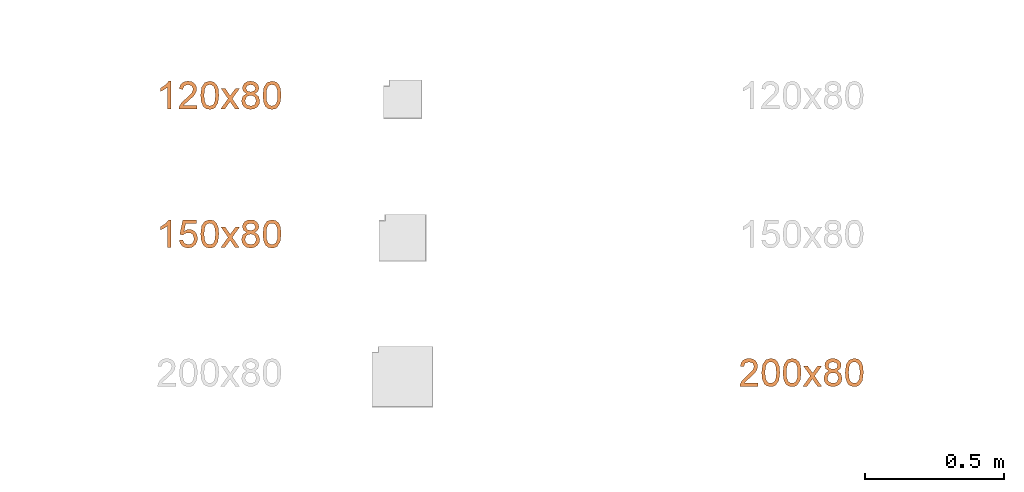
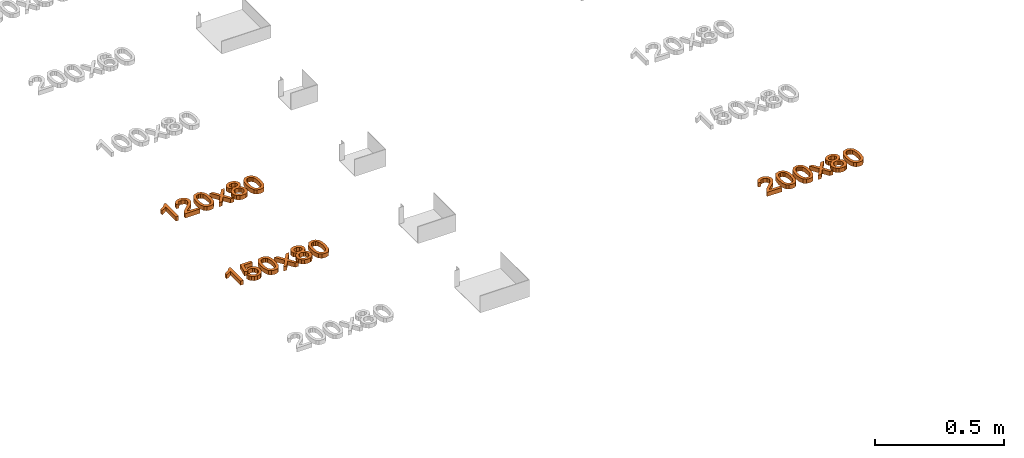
# One storey, part 41 of 71: 3 proxies.
"""IFC2X3 building model written with IfcOpenShell, lengths in millimetres."""

from ifc_helpers import new_model, entity, si_unit, converted_unit, derived_unit, direction, frame, origin, place, context, subcontext, project, spatial, polyline, outline, extrude, element, save


model = new_model("IFC2X3")

# Units and contexts
model_context = context("Model", 3, precision=0.01, world=origin(), true_north=direction((6.12303176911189e-17, 1.0)))
body_context = subcontext(model_context, "Body", "Model", "MODEL_VIEW")
ifc_project = project(units=[si_unit("LENGTHUNIT", "METRE", prefix="MILLI"), si_unit("AREAUNIT", "SQUARE_METRE"), si_unit("VOLUMEUNIT", "CUBIC_METRE"), converted_unit("PLANEANGLEUNIT", "DEGREE", entity("IfcRatioMeasure", 0.0174532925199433), si_unit("PLANEANGLEUNIT", "RADIAN"), dimensions=[0, 0, 0, 0, 0, 0, 0]), si_unit("MASSUNIT", "GRAM", prefix="KILO"), derived_unit("MASSDENSITYUNIT", [(si_unit("MASSUNIT", "GRAM", prefix="KILO"), 1), (si_unit("LENGTHUNIT", "METRE"), -3)]), si_unit("TIMEUNIT", "SECOND"), si_unit("FREQUENCYUNIT", "HERTZ"), si_unit("THERMODYNAMICTEMPERATUREUNIT", "DEGREE_CELSIUS"), derived_unit("THERMALTRANSMITTANCEUNIT", [(si_unit("MASSUNIT", "GRAM", prefix="KILO"), 1), (si_unit("THERMODYNAMICTEMPERATUREUNIT", "KELVIN"), -1), (si_unit("TIMEUNIT", "SECOND"), -3)]), derived_unit("VOLUMETRICFLOWRATEUNIT", [(si_unit("LENGTHUNIT", "METRE"), 3), (si_unit("TIMEUNIT", "SECOND"), -1)]), si_unit("ELECTRICCURRENTUNIT", "AMPERE"), si_unit("ELECTRICVOLTAGEUNIT", "VOLT"), si_unit("POWERUNIT", "WATT"), si_unit("FORCEUNIT", "NEWTON", prefix="KILO"), si_unit("ILLUMINANCEUNIT", "LUX"), si_unit("LUMINOUSFLUXUNIT", "LUMEN"), si_unit("LUMINOUSINTENSITYUNIT", "CANDELA"), derived_unit("USERDEFINED", [(si_unit("MASSUNIT", "GRAM", prefix="KILO"), -1), (si_unit("LENGTHUNIT", "METRE"), -2), (si_unit("TIMEUNIT", "SECOND"), 3), (si_unit("LUMINOUSFLUXUNIT", "LUMEN"), 1)]), derived_unit("LINEARVELOCITYUNIT", [(si_unit("LENGTHUNIT", "METRE"), 1), (si_unit("TIMEUNIT", "SECOND"), -1)]), si_unit("PRESSUREUNIT", "PASCAL"), derived_unit("USERDEFINED", [(si_unit("LENGTHUNIT", "METRE"), -2), (si_unit("MASSUNIT", "GRAM", prefix="KILO"), 1), (si_unit("TIMEUNIT", "SECOND"), -2)])], contexts=[model_context])

# Site, building, storey
site_placement = place(None, origin())
site = spatial("IfcSite", under=ifc_project, at=site_placement, Name="Default", CompositionType="ELEMENT")
building_placement = place(site_placement, origin())
building = spatial("IfcBuilding", under=site, at=building_placement, Name="Наименование здания", CompositionType="ELEMENT")
storey_placement = place(building_placement, origin())
storey = spatial("IfcBuildingStorey", under=building, at=storey_placement, Name="Этаж 01", CompositionType="ELEMENT", Elevation=0.0)

# Proxies
proxy_1_placement = place(storey_placement, origin())
element("IfcBuildingElementProxy", 1, at=proxy_1_placement, inside=storey, Name="Текст модели:100 мм Arial", ObjectType="Текст модели:100 мм Arial", context=body_context, shape_type="SweptSolid", body=[
    extrude(outline(polyline([(-63.8793021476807, -16.918484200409), (36.5770080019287, -16.918484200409), (36.5770080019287, -8.825080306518), (23.2106288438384, 2.34626961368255), (11.4629304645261, 20.7526321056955), (-0.407395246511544, 20.7526321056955), (5.93243780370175, 7.53340574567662), (14.4059864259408, -4.36144543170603), (-63.8793021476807, -4.36144543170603), (-63.8793021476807, -16.918484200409)])), frame((12950.6140165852, -3399.45595365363, 0.0), z_axis=(0.0, 0.0, 1.0), x_axis=(0.0, 1.0, 0.0)), (0.0, 0.0, 1.0), 20.0),
    extrude(outline(polyline([(-32.385878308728, -45.1669477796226), (-32.385878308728, -57.7239865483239), (33.5385752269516, -57.7239865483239), (32.1896745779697, -49.0664969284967), (24.5622545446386, -35.7369059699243), (8.84143061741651, -21.1810416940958), (-12.8390816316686, -0.260818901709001), (-18.2592096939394, 13.9639515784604), (-13.1456499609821, 25.4786580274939), (0.208466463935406, 30.1752848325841), (14.1266686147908, 25.5890226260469), (19.4119066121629, 12.9093565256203), (31.9689453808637, 14.4789863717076), (28.9247218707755, 26.6252235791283), (22.3426998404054, 35.4973110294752), (12.5662358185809, 40.9235704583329), (-0.0613136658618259, 42.7323236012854), (-12.7808336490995, 40.7212353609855), (-22.5389035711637, 34.6879706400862), (-28.746912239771, 25.6748617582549), (-30.8162484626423, 14.7242410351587), (-28.5844310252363, 2.81712712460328), (-21.1654774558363, -9.49465698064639), (-3.17604789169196, -26.6992716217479), (11.2694517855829, -38.7780637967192), (16.9348345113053, -45.1669477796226), (-32.385878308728, -45.1669477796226)])), frame((13029.3244132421, -3405.61126925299, 0.0), z_axis=(0.0, 0.0, -1.0), x_axis=(-1.0, 0.0, 0.0)), (0.0, 0.0, -1.0), 20.0),
    extrude(outline(polyline([(-7.0288431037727, -33.3490673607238), (17.5323805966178, -33.3490673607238), (35.1984171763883, -27.6137612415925), (43.3439841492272, -18.4876517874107), (47.0516941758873, -5.75150665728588), (46.7162020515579, 4.48638208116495), (43.4465778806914, 13.0955287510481), (27.9444305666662, 25.665911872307), (-0.31433837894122, 32.2325535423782), (-24.0296505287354, 32.3678288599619), (-39.4143020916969, 28.0260881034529), (-49.7293680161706, 18.9002174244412), (-54.4436715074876, 4.63998875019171), (-50.867658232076, -14.1301059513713), (-35.4058547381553, -26.7333390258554), (-7.0288431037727, -33.3490673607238)]), holes=[polyline([(-5.77428774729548, -20.8548320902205), (-25.0157644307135, -17.3562860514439), (-36.7257089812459, -11.5717922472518), (-41.0962588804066, -4.7759968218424), (-41.9669219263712, 3.21464792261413), (-39.2244253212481, 11.2791292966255), (-32.865406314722, 17.2229259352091), (-20.969837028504, 20.2947501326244), (-1.61768958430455, 19.7433141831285), (17.8514140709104, 16.2707701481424), (28.7803640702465, 10.7141596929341), (33.5546988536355, 3.61815959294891), (34.5599568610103, -4.47255337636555), (31.9421230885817, -12.1923199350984), (25.8471825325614, -18.1754808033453), (14.0250679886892, -21.402747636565), (-5.77428774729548, -20.8548320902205)])]), frame((13108.158867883, -3417.51207886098, 0.0), z_axis=(0.0, 0.0, 1.0), x_axis=(0.1018515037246, -0.994799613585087, 0.0)), (0.0, 0.0, 1.0), 20.0),
    extrude(outline(polyline([(-34.5302215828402, -38.4265006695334), (-19.4225343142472, -38.4265006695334), (-0.341721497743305, -12.0616243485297), (2.478707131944, -16.1328517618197), (17.8561745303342, -38.4265006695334), (32.9638617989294, -38.4265006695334), (7.40832586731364, -1.34399555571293), (33.9448804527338, 35.3461020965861), (18.8371931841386, 35.3461020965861), (4.95577923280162, 16.1671874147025), (0.0261604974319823, 9.34910777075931), (-5.66374769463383, 17.6877663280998), (-17.8529044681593, 35.3461020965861), (-32.9605917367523, 35.3461020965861), (-7.69936140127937, -1.34399555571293), (-34.5302215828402, -38.4265006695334)])), frame((13181.0005248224, -3424.90875513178, 0.0)), (0.0, 0.0, 1.0), 20.0),
    extrude(outline(polyline([(10.1224324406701, -11.2212127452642), (26.4477736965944, -11.2212127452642), (39.6861381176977, -0.0909413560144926), (44.6322314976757, 11.3078156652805), (44.5856416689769, 23.4168603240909), (39.6073830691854, 34.8346290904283), (29.7584701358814, 44.1595584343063), (17.423605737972, 49.7956565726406), (4.98749274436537, 50.1469317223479), (-6.20047708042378, 45.7236060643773), (-14.7909119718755, 37.0359017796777), (-20.0781666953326, 21.0056847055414), (-14.507062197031, 5.3769249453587), (-28.0684052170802, 5.15563707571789), (-37.7221714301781, -2.6084501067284), (-41.5236361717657, -11.9357006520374), (-41.0036870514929, -22.2232653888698), (-36.1916154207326, -32.187077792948), (-27.1167126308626, -40.5430713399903), (-16.0503295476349, -45.8123091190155), (-5.18246445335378, -46.5706787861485), (4.3845330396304, -43.2361071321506), (11.5483133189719, -36.2265209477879), (15.2516244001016, -24.0826582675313), (10.1224324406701, -11.2212127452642)]), holes=[polyline([(1.34077476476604, -28.9039041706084), (-7.53771017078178, -33.9815875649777), (-20.2415350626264, -30.0339976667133), (-28.5905650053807, -19.6902819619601), (-26.9800933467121, -9.1378791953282), (-18.1108932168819, -3.87648928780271), (-5.45128168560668, -7.82385811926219), (3.1592702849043, -18.2403048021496), (1.34077476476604, -28.9039041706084)]), polyline([(29.0262968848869, 6.56051660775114), (17.1806533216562, -1.51571690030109), (9.68494123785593, -1.27757268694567), (1.95268767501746, 2.32885586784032), (-4.46267094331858, 8.27886886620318), (-7.64161156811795, 15.3010558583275), (-4.59707955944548, 29.6929468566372), (7.31333657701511, 37.7994665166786), (14.8367372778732, 37.4872096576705), (22.6595729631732, 33.8012523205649), (30.3730358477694, 25.5864099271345), (32.5711030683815, 15.572746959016), (29.0262968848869, 6.56051660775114)])]), frame((13254.7737407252, -3411.65422231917, 0.0), z_axis=(0.0, 0.0, 1.0), x_axis=(-0.829266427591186, -0.558853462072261, 0.0)), (0.0, 0.0, 1.0), 20.0),
    extrude(outline(polyline([(-7.02884310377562, -33.3490673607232), (17.5323805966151, -33.3490673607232), (35.1984171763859, -27.6137612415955), (43.3439841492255, -18.4876517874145), (47.051694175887, -5.75150665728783), (46.7162020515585, 4.48638208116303), (43.4465778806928, 13.0955287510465), (27.9444305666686, 25.6659118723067), (-0.314338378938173, 32.2325535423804), (-24.0296505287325, 32.367828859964), (-39.4143020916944, 28.0260881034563), (-49.729368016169, 18.9002174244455), (-54.4436715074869, 4.63998875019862), (-50.8676582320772, -14.1301059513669), (-35.4058547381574, -26.7333390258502), (-7.02884310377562, -33.3490673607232)]), holes=[polyline([(-5.77428774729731, -20.85483209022), (-25.0157644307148, -17.3562860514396), (-36.7257089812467, -11.5717922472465), (-41.0962588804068, -4.77599682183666), (-41.9669219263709, 3.21464792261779), (-39.2244253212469, 11.2791292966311), (-32.8654063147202, 17.2229259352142), (-20.9698370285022, 20.2947501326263), (-1.61768958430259, 19.7433141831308), (17.851414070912, 16.270770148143), (28.7803640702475, 10.7141596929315), (33.554698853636, 3.61815959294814), (34.5599568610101, -4.47255337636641), (31.9421230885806, -12.1923199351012), (25.8471825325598, -18.1754808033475), (14.0250679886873, -21.4027476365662), (-5.77428774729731, -20.85483209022)])]), frame((13332.6159358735, -3417.51207886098, 0.0), z_axis=(0.0, 0.0, 1.0), x_axis=(0.101851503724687, -0.994799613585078, 0.0)), (0.0, 0.0, 1.0), 20.0),
])
proxy_2_placement = place(storey_placement, origin())
element("IfcBuildingElementProxy", 2, at=proxy_2_placement, inside=storey, Name="Текст модели:100 мм Arial", ObjectType="Текст модели:100 мм Arial", context=body_context, shape_type="SweptSolid", body=[
    extrude(outline(polyline([(-63.8793021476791, -16.918484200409), (36.5770080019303, -16.918484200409), (36.5770080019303, -8.825080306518), (23.21062884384, 2.34626961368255), (11.4629304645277, 20.7526321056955), (-0.40739524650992, 20.7526321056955), (5.93243780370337, 7.53340574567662), (14.4059864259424, -4.36144543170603), (-63.8793021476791, -4.36144543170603), (-63.8793021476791, -16.918484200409)])), frame((12950.6140165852, -3899.45595365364, 0.0), z_axis=(0.0, 0.0, 1.0), x_axis=(0.0, 1.0, 0.0)), (0.0, 0.0, 1.0), 20.0),
    extrude(outline(polyline([(3.81439562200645, -37.2548959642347), (15.7323946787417, -37.2548959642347), (26.1588137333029, -33.0579698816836), (34.2921694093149, -25.0537205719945), (39.3309783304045, -13.6317508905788), (40.2219288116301, 1.43409098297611), (34.3991305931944, 14.6815107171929), (25.535021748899, 23.1481891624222), (13.9054384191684, 28.2770976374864), (0.912111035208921, 29.4702838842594), (-10.7159258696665, 25.7768606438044), (-19.742707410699, 18.0989984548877), (-24.9322687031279, 7.33886785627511), (-25.5937300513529, -2.21124798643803), (-22.6370240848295, -12.2793380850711), (-47.9924930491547, 0.0204883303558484), (-38.0977082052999, 37.2324069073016), (-50.2330599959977, 40.4592412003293), (-62.7370428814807, -6.5652469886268), (-15.5021967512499, -30.494371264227), (-10.7584434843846, -18.7623737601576), (-14.4216298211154, -10.4922324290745), (-13.6981616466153, 0.722667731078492), (-9.98738154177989, 9.35727561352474), (-4.32553373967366, 14.6878856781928), (11.4370636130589, 15.9400687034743), (19.7481682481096, 12.2772427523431), (25.435572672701, 6.40632241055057), (28.066514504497, -1.27212018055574), (27.2082313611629, -10.3575128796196), (19.6530635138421, -21.9256319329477), (5.52431094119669, -24.7161898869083), (3.81439562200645, -37.2548959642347)])), frame((13032.3790792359, -3923.39170175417, 0.0), z_axis=(0.0, 0.0, 1.0), x_axis=(0.256974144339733, -0.966418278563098, 0.0)), (0.0, 0.0, 1.0), 20.0),
    extrude(outline(polyline([(-7.0288431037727, -33.3490673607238), (17.5323805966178, -33.3490673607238), (35.1984171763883, -27.6137612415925), (43.3439841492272, -18.4876517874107), (47.0516941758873, -5.75150665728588), (46.7162020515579, 4.48638208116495), (43.4465778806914, 13.0955287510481), (27.9444305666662, 25.665911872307), (-0.31433837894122, 32.2325535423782), (-24.0296505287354, 32.3678288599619), (-39.4143020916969, 28.0260881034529), (-49.7293680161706, 18.9002174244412), (-54.4436715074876, 4.63998875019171), (-50.867658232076, -14.1301059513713), (-35.4058547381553, -26.7333390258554), (-7.0288431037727, -33.3490673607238)]), holes=[polyline([(-5.77428774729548, -20.8548320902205), (-25.0157644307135, -17.3562860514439), (-36.7257089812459, -11.5717922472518), (-41.0962588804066, -4.7759968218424), (-41.9669219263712, 3.21464792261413), (-39.2244253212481, 11.2791292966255), (-32.865406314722, 17.2229259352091), (-20.969837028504, 20.2947501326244), (-1.61768958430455, 19.7433141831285), (17.8514140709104, 16.2707701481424), (28.7803640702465, 10.7141596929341), (33.5546988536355, 3.61815959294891), (34.5599568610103, -4.47255337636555), (31.9421230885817, -12.1923199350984), (25.8471825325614, -18.1754808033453), (14.0250679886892, -21.402747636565), (-5.77428774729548, -20.8548320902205)])]), frame((13108.158867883, -3917.51207886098, 0.0), z_axis=(0.0, 0.0, 1.0), x_axis=(0.1018515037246, -0.994799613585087, 0.0)), (0.0, 0.0, 1.0), 20.0),
    extrude(outline(polyline([(-34.5302215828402, -38.4265006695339), (-19.4225343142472, -38.4265006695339), (-0.341721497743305, -12.0616243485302), (2.478707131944, -16.1328517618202), (17.8561745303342, -38.4265006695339), (32.9638617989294, -38.4265006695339), (7.40832586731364, -1.34399555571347), (33.9448804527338, 35.3461020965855), (18.8371931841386, 35.3461020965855), (4.95577923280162, 16.167187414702), (0.0261604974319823, 9.34910777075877), (-5.66374769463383, 17.6877663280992), (-17.8529044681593, 35.3461020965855), (-32.9605917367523, 35.3461020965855), (-7.69936140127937, -1.34399555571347), (-34.5302215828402, -38.4265006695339)])), frame((13181.0005248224, -3924.90875513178, 0.0)), (0.0, 0.0, 1.0), 20.0),
    extrude(outline(polyline([(10.1224324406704, -11.2212127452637), (26.4477736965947, -11.2212127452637), (39.686138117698, -0.0909413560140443), (44.6322314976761, 11.3078156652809), (44.5856416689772, 23.4168603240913), (39.6073830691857, 34.8346290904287), (29.7584701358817, 44.1595584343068), (17.4236057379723, 49.795656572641), (4.98749274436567, 50.1469317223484), (-6.20047708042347, 45.7236060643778), (-14.7909119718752, 37.0359017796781), (-20.0781666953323, 21.0056847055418), (-14.5070621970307, 5.37692494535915), (-28.0684052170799, 5.15563707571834), (-37.7221714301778, -2.60845010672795), (-41.5236361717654, -11.935700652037), (-41.0036870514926, -22.2232653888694), (-36.1916154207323, -32.1870777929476), (-27.1167126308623, -40.5430713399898), (-16.0503295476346, -45.812309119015), (-5.18246445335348, -46.5706787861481), (4.3845330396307, -43.2361071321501), (11.5483133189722, -36.2265209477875), (15.2516244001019, -24.0826582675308), (10.1224324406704, -11.2212127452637)]), holes=[polyline([(29.0262968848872, 6.56051660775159), (17.1806533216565, -1.51571690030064), (9.68494123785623, -1.27757268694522), (1.95268767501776, 2.32885586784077), (-4.46267094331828, 8.27886886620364), (-7.64161156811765, 15.3010558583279), (-4.59707955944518, 29.6929468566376), (7.31333657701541, 37.799466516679), (14.8367372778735, 37.487209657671), (22.6595729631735, 33.8012523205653), (30.3730358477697, 25.5864099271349), (32.5711030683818, 15.5727469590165), (29.0262968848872, 6.56051660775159)]), polyline([(1.34077476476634, -28.903904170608), (-7.53771017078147, -33.9815875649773), (-20.2415350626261, -30.0339976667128), (-28.5905650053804, -19.6902819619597), (-26.9800933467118, -9.13787919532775), (-18.1108932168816, -3.87648928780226), (-5.45128168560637, -7.82385811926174), (3.1592702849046, -18.2403048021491), (1.34077476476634, -28.903904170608)])]), frame((13254.7737407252, -3911.65422231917, 0.0), z_axis=(0.0, 0.0, 1.0), x_axis=(-0.829266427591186, -0.558853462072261, 0.0)), (0.0, 0.0, 1.0), 20.0),
    extrude(outline(polyline([(-7.02884310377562, -33.3490673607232), (17.5323805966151, -33.3490673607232), (35.1984171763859, -27.6137612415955), (43.3439841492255, -18.4876517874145), (47.051694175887, -5.75150665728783), (46.7162020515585, 4.48638208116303), (43.4465778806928, 13.0955287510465), (27.9444305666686, 25.6659118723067), (-0.314338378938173, 32.2325535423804), (-24.0296505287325, 32.367828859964), (-39.4143020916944, 28.0260881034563), (-49.729368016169, 18.9002174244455), (-54.4436715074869, 4.63998875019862), (-50.8676582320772, -14.1301059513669), (-35.4058547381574, -26.7333390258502), (-7.02884310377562, -33.3490673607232)]), holes=[polyline([(-5.77428774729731, -20.85483209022), (-25.0157644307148, -17.3562860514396), (-36.7257089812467, -11.5717922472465), (-41.0962588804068, -4.77599682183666), (-41.9669219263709, 3.21464792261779), (-39.2244253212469, 11.2791292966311), (-32.8654063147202, 17.2229259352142), (-20.9698370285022, 20.2947501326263), (-1.61768958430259, 19.7433141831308), (17.851414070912, 16.270770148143), (28.7803640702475, 10.7141596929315), (33.554698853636, 3.61815959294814), (34.5599568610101, -4.47255337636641), (31.9421230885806, -12.1923199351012), (25.8471825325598, -18.1754808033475), (14.0250679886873, -21.4027476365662), (-5.77428774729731, -20.85483209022)])]), frame((13332.6159358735, -3917.51207886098, 0.0), z_axis=(0.0, 0.0, 1.0), x_axis=(0.101851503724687, -0.994799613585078, 0.0)), (0.0, 0.0, 1.0), 20.0),
])
proxy_3_placement = place(storey_placement, origin())
element("IfcBuildingElementProxy", 3, at=proxy_3_placement, inside=storey, Name="Текст модели:100 мм Arial", ObjectType="Текст модели:100 мм Arial", context=body_context, shape_type="SweptSolid", body=[
    extrude(outline(polyline([(-32.3858783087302, -45.1669477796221), (-32.3858783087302, -57.7239865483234), (33.5385752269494, -57.7239865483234), (32.1896745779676, -49.0664969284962), (24.5622545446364, -35.7369059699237), (8.84143061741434, -21.1810416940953), (-12.8390816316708, -0.26081890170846), (-18.2592096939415, 13.9639515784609), (-13.1456499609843, 25.4786580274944), (0.20846646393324, 30.1752848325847), (14.1266686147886, 25.5890226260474), (19.4119066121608, 12.9093565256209), (31.9689453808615, 14.4789863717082), (28.9247218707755, 26.6252235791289), (22.3426998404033, 35.4973110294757), (12.5662358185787, 40.9235704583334), (-0.0613136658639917, 42.732323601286), (-12.7808336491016, 40.721235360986), (-22.5389035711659, 34.6879706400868), (-28.7469122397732, 25.6748617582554), (-30.8162484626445, 14.7242410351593), (-28.5844310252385, 2.81712712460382), (-21.1654774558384, -9.49465698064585), (-3.17604789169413, -26.6992716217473), (11.2694517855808, -38.7780637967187), (16.9348345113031, -45.1669477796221), (-32.3858783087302, -45.1669477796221)])), frame((15052.4125507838, -4405.611269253, 0.0), z_axis=(0.0, 0.0, -1.0), x_axis=(-1.0, 0.0, 0.0)), (0.0, 0.0, -1.0), 20.0),
    extrude(outline(polyline([(-7.02884310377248, -33.3490673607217), (17.532380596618, -33.3490673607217), (35.1984171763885, -27.6137612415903), (43.3439841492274, -18.4876517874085), (47.0516941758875, -5.75150665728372), (46.7162020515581, 4.4863820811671), (43.4465778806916, 13.0955287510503), (27.9444305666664, 25.6659118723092), (-0.314338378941, 32.2325535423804), (-24.0296505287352, 32.367828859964), (-39.4143020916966, 28.026088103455), (-49.7293680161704, 18.9002174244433), (-54.4436715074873, 4.63998875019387), (-50.8676582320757, -14.1301059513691), (-35.4058547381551, -26.7333390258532), (-7.02884310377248, -33.3490673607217)]), holes=[polyline([(-5.77428774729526, -20.8548320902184), (-25.0157644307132, -17.3562860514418), (-36.7257089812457, -11.5717922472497), (-41.0962588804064, -4.77599682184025), (-41.966921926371, 3.21464792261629), (-39.2244253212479, 11.2791292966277), (-32.8654063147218, 17.2229259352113), (-20.9698370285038, 20.2947501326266), (-1.61768958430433, 19.7433141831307), (17.8514140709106, 16.2707701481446), (28.7803640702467, 10.7141596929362), (33.5546988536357, 3.61815959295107), (34.5599568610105, -4.47255337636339), (31.9421230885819, -12.1923199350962), (25.8471825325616, -18.1754808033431), (14.0250679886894, -21.4027476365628), (-5.77428774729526, -20.8548320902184)])]), frame((15131.2470054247, -4417.51207886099, 0.0), z_axis=(0.0, 0.0, 1.0), x_axis=(0.1018515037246, -0.994799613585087, 0.0)), (0.0, 0.0, 1.0), 20.0),
    extrude(outline(polyline([(-7.0288431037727, -33.3490673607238), (17.5323805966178, -33.3490673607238), (35.1984171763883, -27.6137612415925), (43.3439841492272, -18.4876517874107), (47.0516941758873, -5.75150665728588), (46.7162020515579, 4.48638208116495), (43.4465778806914, 13.0955287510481), (27.9444305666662, 25.665911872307), (-0.31433837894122, 32.2325535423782), (-24.0296505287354, 32.3678288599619), (-39.4143020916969, 28.0260881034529), (-49.7293680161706, 18.9002174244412), (-54.4436715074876, 4.63998875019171), (-50.867658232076, -14.1301059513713), (-35.4058547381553, -26.7333390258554), (-7.0288431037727, -33.3490673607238)]), holes=[polyline([(-5.77428774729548, -20.8548320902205), (-25.0157644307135, -17.3562860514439), (-36.7257089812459, -11.5717922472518), (-41.0962588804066, -4.7759968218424), (-41.9669219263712, 3.21464792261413), (-39.2244253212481, 11.2791292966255), (-32.865406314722, 17.2229259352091), (-20.969837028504, 20.2947501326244), (-1.61768958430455, 19.7433141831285), (17.8514140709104, 16.2707701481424), (28.7803640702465, 10.7141596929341), (33.5546988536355, 3.61815959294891), (34.5599568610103, -4.47255337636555), (31.9421230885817, -12.1923199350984), (25.8471825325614, -18.1754808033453), (14.0250679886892, -21.402747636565), (-5.77428774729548, -20.8548320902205)])]), frame((15208.158867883, -4417.51207886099, 0.0), z_axis=(0.0, 0.0, 1.0), x_axis=(0.1018515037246, -0.994799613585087, 0.0)), (0.0, 0.0, 1.0), 20.0),
    extrude(outline(polyline([(-34.5302215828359, -38.4265006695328), (-19.4225343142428, -38.4265006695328), (-0.341721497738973, -12.0616243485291), (2.47870713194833, -16.1328517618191), (17.8561745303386, -38.4265006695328), (32.9638617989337, -38.4265006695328), (7.40832586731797, -1.34399555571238), (33.9448804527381, 35.3461020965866), (18.837193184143, 35.3461020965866), (4.95577923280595, 16.1671874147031), (0.0261604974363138, 9.34910777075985), (-5.6637476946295, 17.6877663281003), (-17.852904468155, 35.3461020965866), (-32.960591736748, 35.3461020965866), (-7.69936140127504, -1.34399555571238), (-34.5302215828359, -38.4265006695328)])), frame((15281.0005248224, -4424.90875513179, 0.0)), (0.0, 0.0, 1.0), 20.0),
    extrude(outline(polyline([(10.1224324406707, -11.2212127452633), (26.447773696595, -11.2212127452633), (39.6861381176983, -0.0909413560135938), (44.6322314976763, 11.3078156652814), (44.5856416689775, 23.4168603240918), (39.607383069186, 34.8346290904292), (29.758470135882, 44.1595584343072), (17.4236057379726, 49.7956565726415), (4.98749274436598, 50.1469317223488), (-6.20047708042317, 45.7236060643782), (-14.7909119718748, 37.0359017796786), (-20.078166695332, 21.0056847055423), (-14.5070621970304, 5.3769249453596), (-28.0684052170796, 5.15563707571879), (-37.7221714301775, -2.6084501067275), (-41.5236361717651, -11.9357006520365), (-41.0036870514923, -22.2232653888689), (-36.191615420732, -32.1870777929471), (-27.116712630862, -40.5430713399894), (-16.0503295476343, -45.8123091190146), (-5.18246445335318, -46.5706787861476), (4.384533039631, -43.2361071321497), (11.5483133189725, -36.226520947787), (15.2516244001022, -24.0826582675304), (10.1224324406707, -11.2212127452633)]), holes=[polyline([(29.0262968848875, 6.56051660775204), (17.1806533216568, -1.51571690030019), (9.68494123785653, -1.27757268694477), (1.95268767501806, 2.32885586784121), (-4.46267094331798, 8.27886886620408), (-7.64161156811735, 15.3010558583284), (-4.59707955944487, 29.6929468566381), (7.31333657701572, 37.7994665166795), (14.8367372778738, 37.4872096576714), (22.6595729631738, 33.8012523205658), (30.37303584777, 25.5864099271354), (32.5711030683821, 15.5727469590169), (29.0262968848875, 6.56051660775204)]), polyline([(1.34077476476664, -28.9039041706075), (-7.53771017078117, -33.9815875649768), (-20.2415350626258, -30.0339976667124), (-28.5905650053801, -19.6902819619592), (-26.9800933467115, -9.1378791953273), (-18.1108932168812, -3.87648928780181), (-5.45128168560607, -7.82385811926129), (3.1592702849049, -18.2403048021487), (1.34077476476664, -28.9039041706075)])]), frame((15354.7737407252, -4411.65422231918, 0.0), z_axis=(0.0, 0.0, 1.0), x_axis=(-0.829266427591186, -0.558853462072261, 0.0)), (0.0, 0.0, 1.0), 20.0),
    extrude(outline(polyline([(-7.02884310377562, -33.3490673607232), (17.5323805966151, -33.3490673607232), (35.1984171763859, -27.6137612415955), (43.3439841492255, -18.4876517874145), (47.051694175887, -5.75150665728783), (46.7162020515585, 4.48638208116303), (43.4465778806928, 13.0955287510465), (27.9444305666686, 25.6659118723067), (-0.314338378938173, 32.2325535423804), (-24.0296505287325, 32.367828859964), (-39.4143020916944, 28.0260881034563), (-49.729368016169, 18.9002174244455), (-54.4436715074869, 4.63998875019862), (-50.8676582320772, -14.1301059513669), (-35.4058547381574, -26.7333390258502), (-7.02884310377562, -33.3490673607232)]), holes=[polyline([(-5.77428774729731, -20.85483209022), (-25.0157644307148, -17.3562860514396), (-36.7257089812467, -11.5717922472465), (-41.0962588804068, -4.77599682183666), (-41.9669219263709, 3.21464792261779), (-39.2244253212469, 11.2791292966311), (-32.8654063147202, 17.2229259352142), (-20.9698370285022, 20.2947501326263), (-1.61768958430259, 19.7433141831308), (17.851414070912, 16.270770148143), (28.7803640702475, 10.7141596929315), (33.554698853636, 3.61815959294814), (34.5599568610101, -4.47255337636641), (31.9421230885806, -12.1923199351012), (25.8471825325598, -18.1754808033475), (14.0250679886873, -21.4027476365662), (-5.77428774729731, -20.85483209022)])]), frame((15432.6159358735, -4417.51207886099, 0.0), z_axis=(0.0, 0.0, 1.0), x_axis=(0.101851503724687, -0.994799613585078, 0.0)), (0.0, 0.0, 1.0), 20.0),
])

save(model, "model.ifc")
